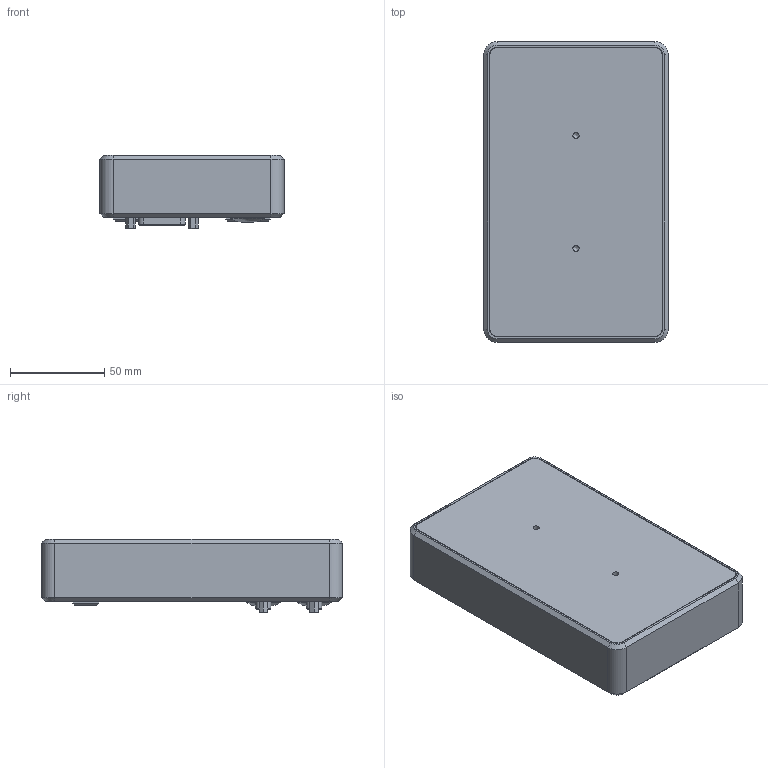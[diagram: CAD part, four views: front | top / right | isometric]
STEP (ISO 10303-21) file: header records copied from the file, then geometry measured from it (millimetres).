
FILE_DESCRIPTION(/* description */ (''),/* implementation_level */ '2;1');
FILE_NAME(/* name */ 'I:\Users\Alle\Inventor\_Projekte\254_B40.0 Irinos\Vereinfachte Modelle\B40.0 Tempbox 2_IL_vereinfacht.stp',/* time_stamp */ '2022-11-09T10:58:35+01:00',/* author */ ('PE'),/* organization */ (''),/* preprocessor_version */ 'ST-DEVELOPER v18.1',/* originating_system */ 'Autodesk Inventor 2021',/* authorisation */ '');
FILE_SCHEMA (('AUTOMOTIVE_DESIGN { 1 0 10303 214 3 1 1 }'));
Length unit declared in the file: millimetre
Products named in the file (1): B40.0 Tempbox 2_IL_vereinfacht
Bounding box: 98 x 160 x 39 mm (x, y, z)
Volume: 516514.5 mm3; surface area: 55018.4 mm2
Topology: 1 solids, 5 shells, 566 faces, 1373 edges, 872 vertices
Faces by surface type: plane 279, cylinder 156, cone 61, torus 36, bspline 34
Full cylindrical faces by diameter (mm): 1.2 x30, 2.459 x7, 2.5 x1, 3 x8, 3.242 x2, 3.3 x4, 3.4 x3, 16.1 x2, 18 x2
Entity records: 21217 total; most frequent: CARTESIAN_POINT 7253, DIRECTION 2770, ORIENTED_EDGE 2734, EDGE_CURVE 1367, AXIS2_PLACEMENT_3D 1018, VERTEX_POINT 872, LINE 734, VECTOR 734
